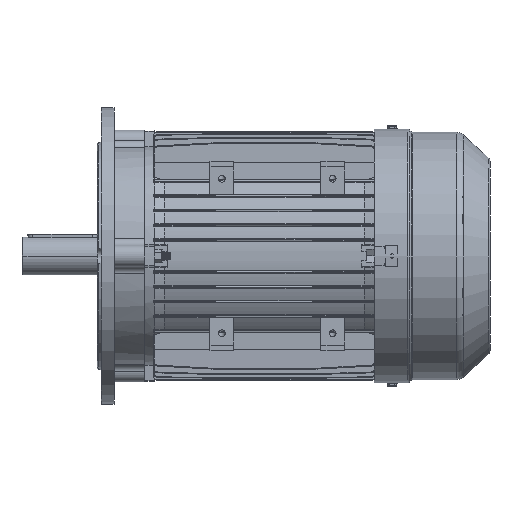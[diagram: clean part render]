
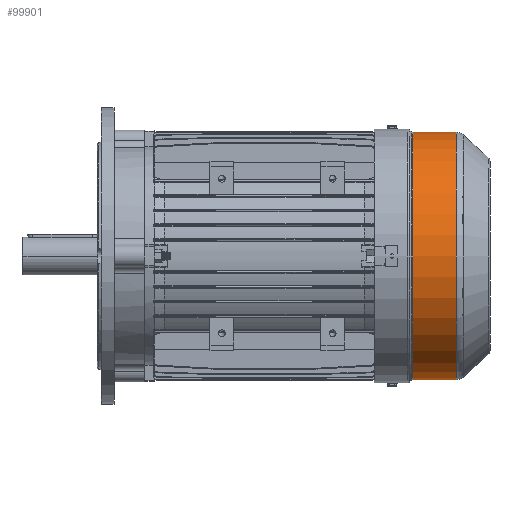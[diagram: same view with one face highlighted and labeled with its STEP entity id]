
A CAD part, front view. The second image highlights one B-rep face of the part: STEP entity #99901.
In plain terms, the highlighted cylindrical face has radius 125 mm (diameter 250 mm), a partial arc.
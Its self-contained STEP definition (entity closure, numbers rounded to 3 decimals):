
#5744 = CIRCLE ( 'NONE', #92071, 125. ) ;
#10584 = VERTEX_POINT ( 'NONE', #40716 ) ;
#16164 = EDGE_LOOP ( 'NONE', ( #82264, #63978, #62235, #139733 ) ) ;
#18047 = CARTESIAN_POINT ( 'NONE',  ( -83.139, 0., -125. ) ) ;
#26656 = VERTEX_POINT ( 'NONE', #107071 ) ;
#28129 = EDGE_CURVE ( 'NONE', #10584, #114721, #65933, .T. ) ;
#40716 = CARTESIAN_POINT ( 'NONE',  ( -83.139, 0., 125. ) ) ;
#40739 = DIRECTION ( 'NONE',  ( -1., 0., 0. ) ) ;
#44622 = AXIS2_PLACEMENT_3D ( 'NONE', #128117, #76291, #153253 ) ;
#57927 = EDGE_CURVE ( 'NONE', #128824, #10584, #119325, .T. ) ;
#58837 = CARTESIAN_POINT ( 'NONE',  ( -39.028, 0., 0. ) ) ;
#62235 = ORIENTED_EDGE ( 'NONE', *, *, #57927, .T. ) ;
#62797 = DIRECTION ( 'NONE',  ( -1., 0., 0. ) ) ;
#63978 = ORIENTED_EDGE ( 'NONE', *, *, #118240, .T. ) ;
#65933 = CIRCLE ( 'NONE', #44622, 125. ) ;
#72787 = DIRECTION ( 'NONE',  ( 0., 0., 1. ) ) ;
#76291 = DIRECTION ( 'NONE',  ( 1., 0., 0. ) ) ;
#78577 = CARTESIAN_POINT ( 'NONE',  ( -114., 0., 125. ) ) ;
#82264 = ORIENTED_EDGE ( 'NONE', *, *, #130979, .F. ) ;
#82747 = FACE_OUTER_BOUND ( 'NONE', #16164, .T. ) ;
#85548 = DIRECTION ( 'NONE',  ( -1., 0., 0. ) ) ;
#92071 = AXIS2_PLACEMENT_3D ( 'NONE', #58837, #148070, #98970 ) ;
#93550 = AXIS2_PLACEMENT_3D ( 'NONE', #123999, #85548, #72787 ) ;
#97428 = VECTOR ( 'NONE', #40739, 1000. ) ;
#98970 = DIRECTION ( 'NONE',  ( 0., 0., 1. ) ) ;
#99354 = VECTOR ( 'NONE', #62797, 1000. ) ;
#99901 = ADVANCED_FACE ( 'NONE', ( #82747 ), #142625, .T. ) ;
#107071 = CARTESIAN_POINT ( 'NONE',  ( -39.028, 0., -125. ) ) ;
#114721 = VERTEX_POINT ( 'NONE', #18047 ) ;
#118240 = EDGE_CURVE ( 'NONE', #26656, #128824, #5744, .T. ) ;
#119325 = LINE ( 'NONE', #78577, #97428 ) ;
#123999 = CARTESIAN_POINT ( 'NONE',  ( -114., 0., 0. ) ) ;
#126899 = CARTESIAN_POINT ( 'NONE',  ( -114., 0., -125. ) ) ;
#128117 = CARTESIAN_POINT ( 'NONE',  ( -83.139, 0., 0. ) ) ;
#128824 = VERTEX_POINT ( 'NONE', #161047 ) ;
#130979 = EDGE_CURVE ( 'NONE', #26656, #114721, #133278, .T. ) ;
#133278 = LINE ( 'NONE', #126899, #99354 ) ;
#139733 = ORIENTED_EDGE ( 'NONE', *, *, #28129, .T. ) ;
#142625 = CYLINDRICAL_SURFACE ( 'NONE', #93550, 125. ) ;
#148070 = DIRECTION ( 'NONE',  ( -1., 0., 0. ) ) ;
#153253 = DIRECTION ( 'NONE',  ( 0., 0., -1. ) ) ;
#161047 = CARTESIAN_POINT ( 'NONE',  ( -39.028, 0., 125. ) ) ;
